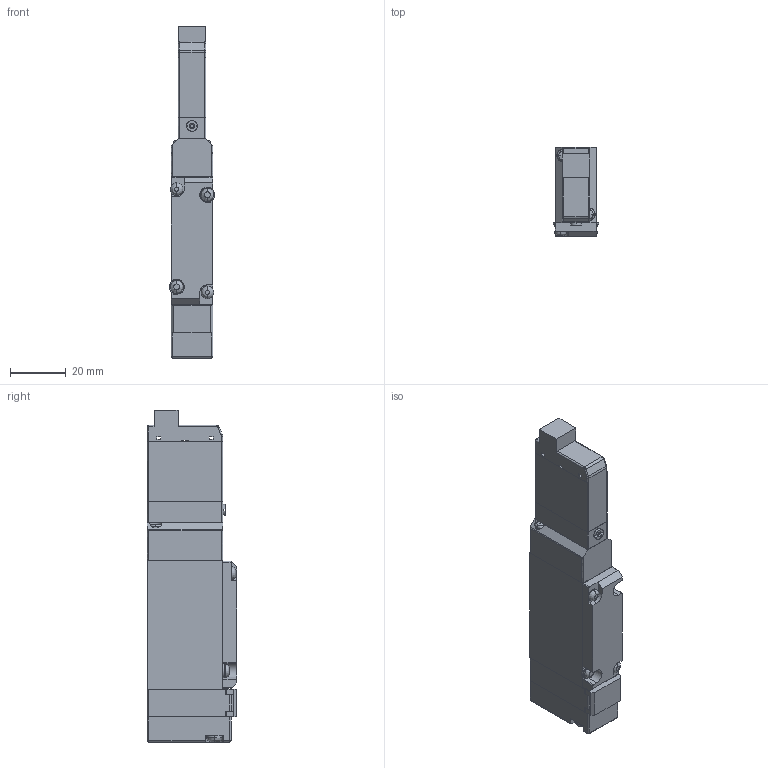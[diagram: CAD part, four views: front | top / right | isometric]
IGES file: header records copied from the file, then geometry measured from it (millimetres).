
Start section: ------------------------------------------------------------------------
Global section: file name: D:\ICADMX\tmp\trans3d_spg\CVICAD02.7120.F15T1-A1-PN_16818.igs; native system: spGate; preprocessor: ver12.6.6; author: Unknown; organization: Unknown; date: 210712.184859; units: millimetre
Bounding box: 16.2 x 32 x 119 mm (x, y, z)
Volume: 44876.8 mm3; surface area: 17308.7 mm2
Topology: 7 solids, 7 shells, 340 faces, 888 edges, 569 vertices
Faces by surface type: bspline 340
